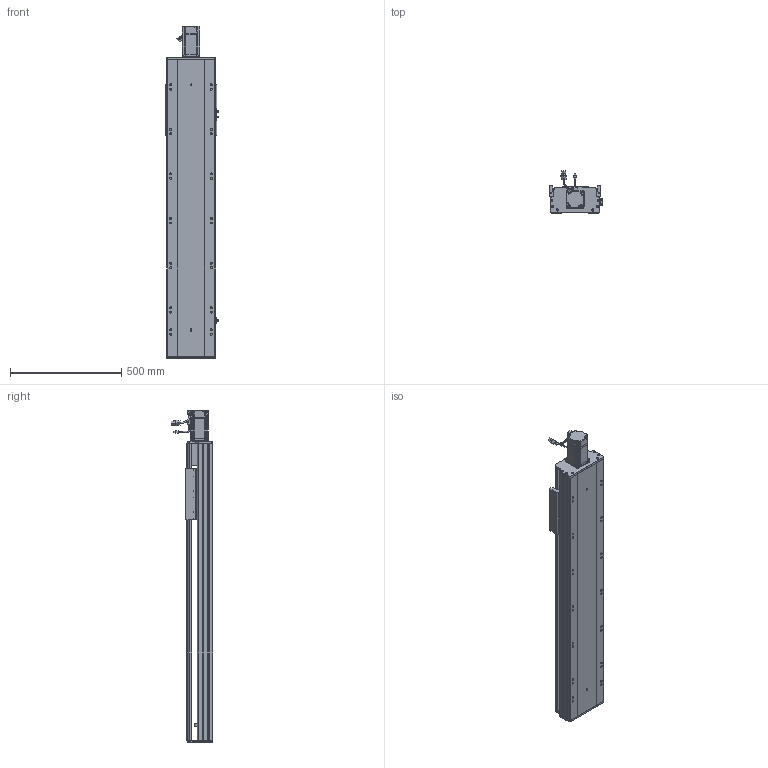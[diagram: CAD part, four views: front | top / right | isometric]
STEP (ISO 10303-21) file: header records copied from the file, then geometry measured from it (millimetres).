
FILE_DESCRIPTION (( 'STEP AP203' ), '1' );
FILE_NAME ('RY220-L2525-800-MK-邧嶺.SLDASM_900.step', '2022-08-06T08:57:20', ( '' ), ( '' ), 'SwSTEP 2.0', 'SolidWorks 2016', '' );
FILE_SCHEMA (( 'CONFIG_CONTROL_DESIGN' ));
Length unit declared in the file: millimetre
Products named in the file (12): RY220綴裔啣; 怢湛750W_ECMA-CX0807ES; RY220-800-奻裔啣-MK_900; 滅袉蝶18-15; 滅袉蝶18-12; 覜茼ん672; RY220电机支撑座FK20（PCD90M6）; RY220-俋离672覜茼んえ; RY220ヶ裔啣; RY220-L2525-800-MK-邧嶺.SLDASM_900; RY220半封闭25-32螺母铝滑块; RY220菁釱MK-800-邧嶺_900
Assembly tree (15 placements, depth 2):
  RY220-L2525-800-MK-邧嶺.SLDASM_900
    RY220菁釱MK-800-邧嶺_900
    RY220电机支撑座FK20（PCD90M6）
    怢湛750W_ECMA-CX0807ES
    滅袉蝶18-12  x2
    RY220ヶ裔啣
    RY220綴裔啣
    覜茼ん672  x3
    RY220半封闭25-32螺母铝滑块
    RY220-800-奻裔啣-MK_900
    RY220-俋离672覜茼んえ
    滅袉蝶18-15  x2
Bounding box: 238.7 x 187.27 x 1490.3 mm (x, y, z)
Volume: 11900474.5 mm3; surface area: 3285017 mm2
Topology: 16 solids, 16 shells, 2218 faces, 6150 edges, 3886 vertices
Faces by surface type: cylinder 996, plane 915, cone 245, bspline 36, sphere 16, torus 10
Entity records: 72936 total; most frequent: CARTESIAN_POINT 20733, ORIENTED_EDGE 10848, DIRECTION 10239, EDGE_CURVE 5424, AXIS2_PLACEMENT_3D 3595, VERTEX_POINT 3542, LINE 3049, VECTOR 3049
